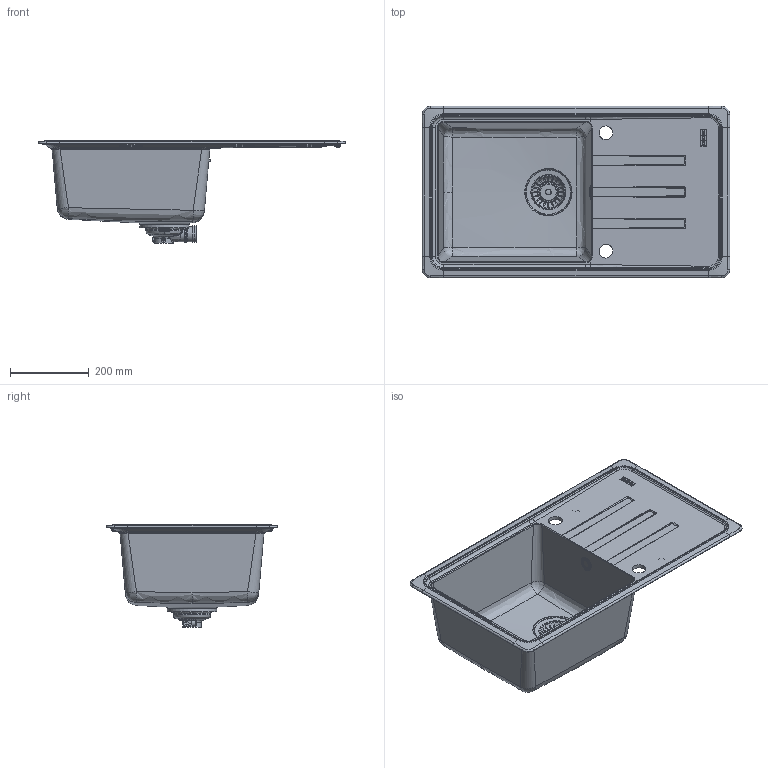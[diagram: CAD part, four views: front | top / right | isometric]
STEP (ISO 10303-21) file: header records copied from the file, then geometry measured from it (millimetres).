
FILE_DESCRIPTION(/* description */ (''),/* implementation_level */ '2;1');
FILE_NAME(/* name */ '3D001_Sinks_Malta_BSG-611-78-39',/* time_stamp */ '2024-07-11T10:14:13+02:00',/* author */ (''),/* organization */ (''),/* preprocessor_version */ 'ST-DEVELOPER v19.2',/* originating_system */ 'Rhino 8.7',/* authorisation */ '');
FILE_SCHEMA (('CONFIG_CONTROL_DESIGN'));
Length unit declared in the file: millimetre
Products named in the file (1): Document
Bounding box: 779.86 x 434.86 x 260.2 mm (x, y, z)
Surface area: 1199899 mm2
Topology: 6 solids, 12 shells, 1688 faces, 4325 edges, 2646 vertices
Faces by surface type: bspline 690, plane 679, cylinder 319
Full cylindrical faces by diameter (mm): 6 x1, 8 x1, 14 x1, 25 x2, 30 x1, 31 x1, 35 x4, 36 x1, 39 x1, 42 x2, 48 x1, 83.403 x1, 84 x1, 90 x1, 126 x1
Entity records: 105279 total; most frequent: CARTESIAN_POINT 71048, ORIENTED_EDGE 8509, EDGE_CURVE 4279, DIRECTION 4132, VERTEX_POINT 2646, B_SPLINE_CURVE_WITH_KNOTS 2582, AXIS2_PLACEMENT_3D 2565, EDGE_LOOP 1756
